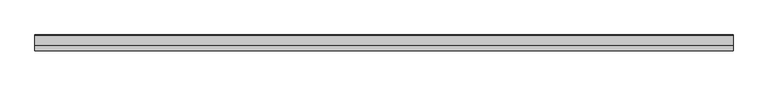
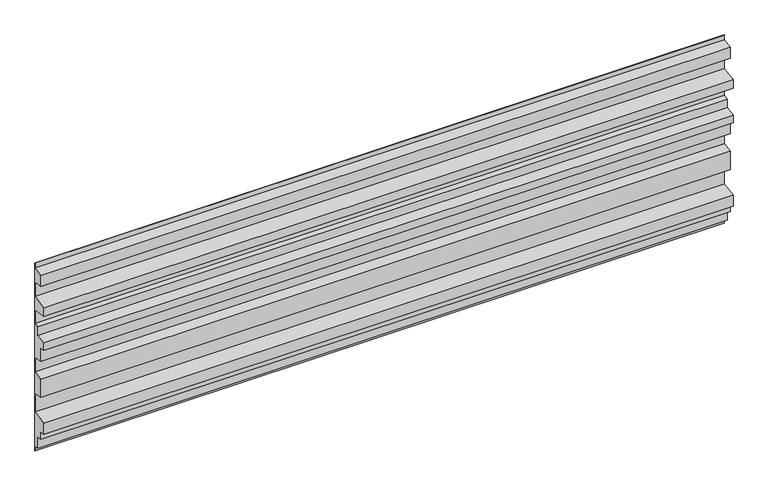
"""IFC4 building model written with IfcOpenShell, lengths in millimetres: plate geometry, ATELIERS 3S_NEW YORK MANHATTAN 780_HORIZONTAL : AZURO."""

from ifc_helpers import new_model, si_unit, frame, origin, place, context, project, spatial, polyline, outline, extrude, source, transform, mapped, element, save


def plate_f3eb326f(model_context):
    return source(origin(), model_context, "Body", "SweptSolid", [
        extrude(outline(polyline([(-40.75, 752.9516131), (-0.8, 759.995876), (-0.8, 780.0), (0.0, 780.0), (0.0, 0.0), (-0.8, 0.0), (-0.8, 19.6941775), (-20.7501589, 23.211221), (-20.7501589, 68.2118488), (-40.7500015, 71.7384174), (-40.7500015, 101.7384166), (-60.7500001, 105.2649565), (-60.7500001, 150.8942812), (-0.75, 161.4739), (-0.75, 238.8445753), (-40.75, 245.8976546), (-40.75, 321.5269793), (-0.75, 328.5800585), (-0.75, 387.9507338), (-40.75, 395.003813), (-40.75, 450.003813), (-60.75, 453.5303526), (-60.75, 484.1596773), (-20.75, 491.2127566), (-20.75, 526.2127566), (-0.75, 529.7392962), (-0.75, 584.1099715), (-60.75, 594.6895903), (-60.75, 630.318915), (-0.75, 640.8985339), (-0.75, 700.2692092), (-40.75, 707.3222884), (-40.75, 752.9516131)])), frame((-1352.0, 0.0, 0.0), z_axis=(1.0, 0.0, 0.0), x_axis=(0.0, 1.0, 0.0)), (0.0, 0.0, 1.0), 2704.0),
    ])


if __name__ == "__main__":
    model = new_model("IFC4")
    model_context = context("Model", 3, world=origin())
    ifc_project = project(units=[si_unit("LENGTHUNIT", "METRE", prefix="MILLI")], contexts=[model_context])
    site = spatial("IfcSite", under=ifc_project)
    building = spatial("IfcBuilding", under=site)
    placement = place(None, origin())
    plate_shape = plate_f3eb326f(model_context)
    element("IfcPlate", 1, ObjectType="ATELIERS 3S_NEW YORK MANHATTAN 780_HORIZONTAL : AZURO", at=placement, inside=building, context=model_context, shape_type="MappedRepresentation", body=[
        mapped(plate_shape, transform((0.0, 0.0, 0.0), x_axis=(1.0, 0.0, 0.0), y_axis=(0.0, 1.0, 0.0), z_axis=(0.0, 0.0, 1.0))),
    ])
    save(model, "model.ifc")
